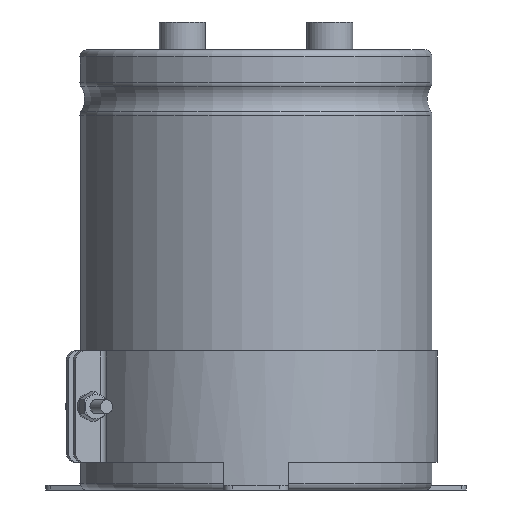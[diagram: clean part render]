
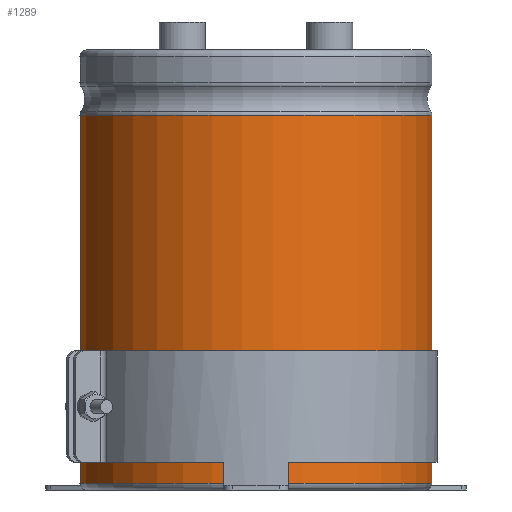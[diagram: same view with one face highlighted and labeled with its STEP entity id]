
A CAD part, left-side view. The second image highlights one B-rep face of the part: STEP entity #1289.
In plain terms, the highlighted cylindrical face has radius 38.1 mm (diameter 76.2 mm), a partial arc.
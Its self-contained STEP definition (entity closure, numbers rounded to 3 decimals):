
#233=LINE('',#6601,#447);
#234=LINE('',#6605,#448);
#447=VECTOR('',#5224,1.);
#448=VECTOR('',#5227,1.);
#695=FACE_OUTER_BOUND('',#1741,.T.);
#1289=ADVANCED_FACE('',(#695),#1519,.T.);
#1519=CYLINDRICAL_SURFACE('',#4585,38.1);
#1741=EDGE_LOOP('',(#2147,#2148,#2149,#2150));
#2147=ORIENTED_EDGE('',*,*,#3702,.T.);
#2148=ORIENTED_EDGE('',*,*,#3703,.T.);
#2149=ORIENTED_EDGE('',*,*,#3704,.F.);
#2150=ORIENTED_EDGE('',*,*,#3705,.F.);
#3274=VERTEX_POINT('',#6594);
#3276=VERTEX_POINT('',#6598);
#3277=VERTEX_POINT('',#6602);
#3278=VERTEX_POINT('',#6604);
#3702=EDGE_CURVE('',#3274,#3276,#4267,.T.);
#3703=EDGE_CURVE('',#3276,#3277,#233,.T.);
#3704=EDGE_CURVE('',#3278,#3277,#4268,.T.);
#3705=EDGE_CURVE('',#3274,#3278,#234,.T.);
#4267=CIRCLE('',#4582,38.1);
#4268=CIRCLE('',#4584,38.1);
#4582=AXIS2_PLACEMENT_3D('',#6599,#5220,#5221);
#4584=AXIS2_PLACEMENT_3D('',#6603,#5225,#5226);
#4585=AXIS2_PLACEMENT_3D('',#6606,#5228,#5229);
#5220=DIRECTION('',(0.,0.,-1.));
#5221=DIRECTION('',(0.,1.,0.));
#5224=DIRECTION('',(0.,0.,-1.));
#5225=DIRECTION('',(0.,0.,-1.));
#5226=DIRECTION('',(0.,1.,0.));
#5227=DIRECTION('',(0.,0.,-1.));
#5228=DIRECTION('',(0.,0.,-1.));
#5229=DIRECTION('',(0.,1.,0.));
#6594=CARTESIAN_POINT('',(3.983,37.891,80.9));
#6598=CARTESIAN_POINT('',(-3.983,37.891,80.9));
#6599=CARTESIAN_POINT('',(0.,0.,80.9));
#6601=CARTESIAN_POINT('',(-3.983,37.891,80.9));
#6602=CARTESIAN_POINT('',(-3.983,37.891,1.5));
#6603=CARTESIAN_POINT('',(0.,0.,1.5));
#6604=CARTESIAN_POINT('',(3.983,37.891,1.5));
#6605=CARTESIAN_POINT('',(3.983,37.891,80.9));
#6606=CARTESIAN_POINT('',(0.,0.,0.));
